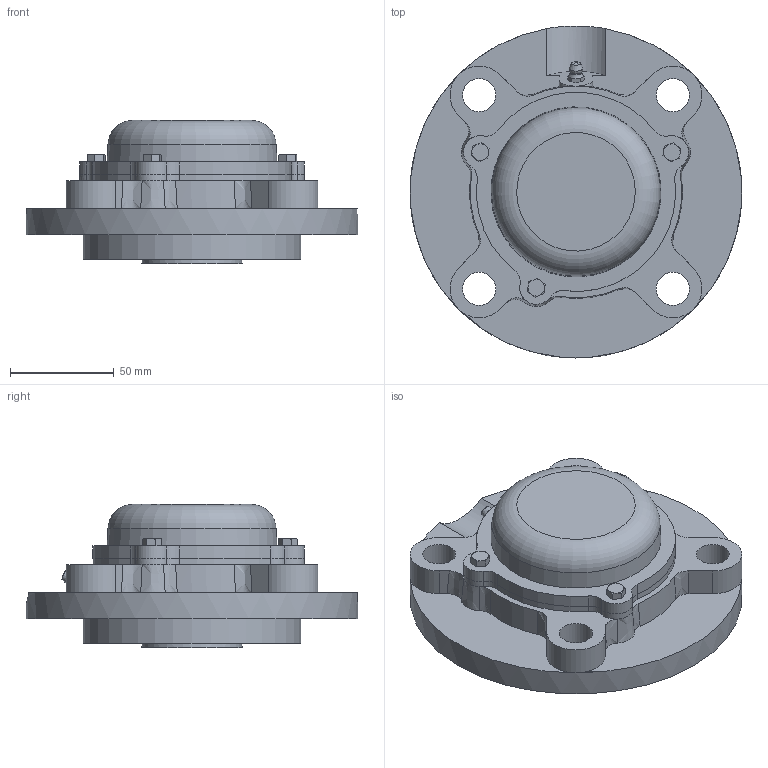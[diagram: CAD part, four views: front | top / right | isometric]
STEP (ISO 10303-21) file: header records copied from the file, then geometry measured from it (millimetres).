
FILE_DESCRIPTION((''),'2;1');
FILE_NAME('\\Ts-tgl068\j-cad-d-base\00.3DCADデータ作成フォルダ\02.フランジ形\CUKFC200\CUKFC209CE+H.stp','2014-05-22T08:57:52',('btec_1106_2'),(''),'Autodesk Inventor 2012','Autodesk Inventor 2012','');
FILE_SCHEMA(('AUTOMOTIVE_DESIGN { 1 0 10303 214 1 1 1 1 }'));
Length unit declared in the file: millimetre
Products named in the file (7): CUKFC200CE+H; CFC209; UK209; GU1; 209CE; M5X0
Assembly tree (8 placements, depth 3):
  CUKFC200CE+H
    CFC209
    UK209
    GU1
    209CE
      209CE
      M5X0  x3
Bounding box: 160 x 160 x 69 mm (x, y, z)
Volume: 471729 mm3; surface area: 116254.7 mm2
Topology: 7 solids, 7 shells, 292 faces, 745 edges, 479 vertices
Faces by surface type: plane 113, cylinder 82, cone 75, bspline 14, sphere 4, torus 4
Full cylindrical faces by diameter (mm): 4.134 x3, 5 x3, 5.359 x1, 6 x3, 6.35 x1, 16 x4, 40 x1, 57.3 x2, 82 x1, 86 x1, 105 x1, 160 x1
Entity records: 8408 total; most frequent: CARTESIAN_POINT 2353, ORIENTED_EDGE 1242, DIRECTION 1199, EDGE_CURVE 621, AXIS2_PLACEMENT_3D 502, VERTEX_POINT 418, EDGE_LOOP 326, FACE_OUTER_BOUND 258
